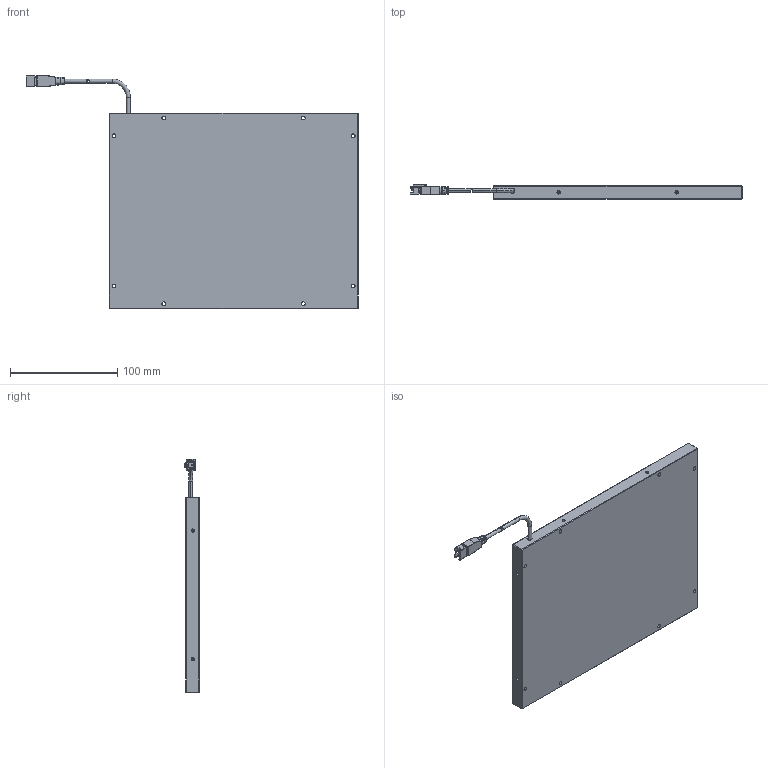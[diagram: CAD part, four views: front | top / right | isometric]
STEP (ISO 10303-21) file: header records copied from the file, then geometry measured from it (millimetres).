
FILE_DESCRIPTION((''),'2;1');
FILE_NAME('LS-LBFH-200-150','2019-09-19T',('LumaSpec Vision'),('LumaSpec Vision'),'PRO/ENGINEER BY PARAMETRIC TECHNOLOGY CORPORATION, 2010100','PRO/ENGINEER BY PARAMETRIC TECHNOLOGY CORPORATION, 2010100','');
FILE_SCHEMA(('CONFIG_CONTROL_DESIGN'));
Length unit declared in the file: millimetre
Products named in the file (5): ZHOUQUAN1__2; LINE_TOU___1; XIAN___1; ASSY___ASM_1_ASM; LS-LBFH-200-150_ASM
Assembly tree (4 placements, depth 3):
  LS-LBFH-200-150_ASM
    ZHOUQUAN1__2
    ASSY___ASM_1_ASM
      LINE_TOU___1
      XIAN___1
Bounding box: 309.43 x 13.15 x 217.25 mm (x, y, z)
Volume: 489703 mm3; surface area: 100145.3 mm2
Topology: 3 solids, 11 shells, 364 faces, 928 edges, 583 vertices
Faces by surface type: plane 178, cylinder 136, cone 23, torus 10, bspline 8, sphere 8, extrusion 1
Entity records: 11322 total; most frequent: CARTESIAN_POINT 2353, DIRECTION 1902, ORIENTED_EDGE 1776, EDGE_CURVE 904, AXIS2_PLACEMENT_3D 681, VERTEX_POINT 583, VECTOR 540, LINE 539
